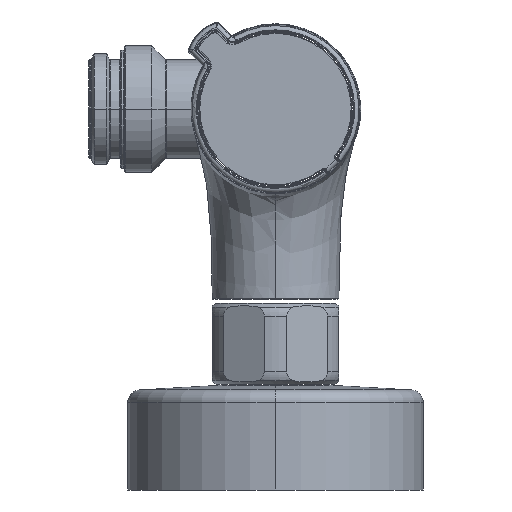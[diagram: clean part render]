
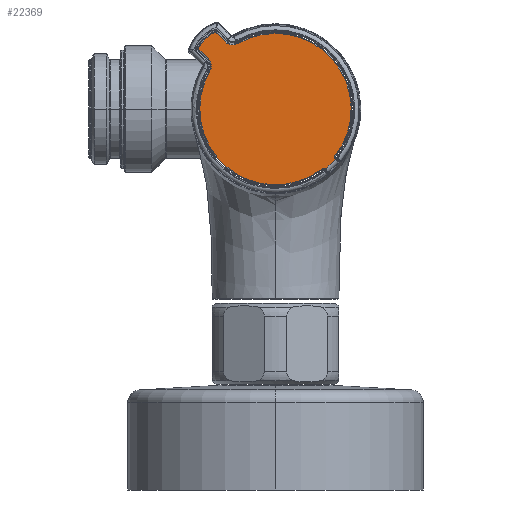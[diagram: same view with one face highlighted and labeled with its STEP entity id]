
A CAD part, left-side view. The second image highlights one B-rep face of the part: STEP entity #22369.
In plain terms, the highlighted planar face has unit normal (-1, 0, 0).
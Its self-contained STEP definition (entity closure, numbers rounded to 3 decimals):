
#21866=DIRECTION('',(0.,-0.707,-0.707));
#21867=VECTOR('',#21866,0.117);
#21868=CARTESIAN_POINT('',(-142.,-14.125,
-11.753));
#21869=LINE('',#21868,#21867);
#21870=CARTESIAN_POINT('',(-142.,0.,0.));
#21871=DIRECTION('',(-1.,0.,0.));
#21872=DIRECTION('',(0.,-0.64,-0.768));
#21873=AXIS2_PLACEMENT_3D('',#21870,#21871,#21872);
#21875=DIRECTION('',(0.,0.707,0.707));
#21876=VECTOR('',#21875,0.117);
#21877=CARTESIAN_POINT('',(-142.,-11.835,
-14.207));
#21878=LINE('',#21877,#21876);
#21879=CARTESIAN_POINT('',(-142.,-11.753,
-14.125));
#21880=CARTESIAN_POINT('',(-142.,-11.718,
-14.09));
#21881=CARTESIAN_POINT('',(-142.,-11.641,
-14.033));
#21882=CARTESIAN_POINT('',(-142.,-11.502,
-13.982));
#21883=CARTESIAN_POINT('',(-142.,-11.356,
-13.973));
#21884=CARTESIAN_POINT('',(-142.,-11.213,
-14.007));
#21885=CARTESIAN_POINT('',(-142.,-11.129,
-14.055));
#21886=CARTESIAN_POINT('',(-142.,-11.09,
-14.085));
#21888=CARTESIAN_POINT('',(-142.,0.,0.));
#21889=DIRECTION('',(1.,0.,0.));
#21890=DIRECTION('',(0.,-0.619,-0.786));
#21891=AXIS2_PLACEMENT_3D('',#21888,#21889,#21890);
#21893=CARTESIAN_POINT('',(-142.,15.52,
8.972));
#21894=CARTESIAN_POINT('',(-142.,15.483,
9.036));
#21895=CARTESIAN_POINT('',(-142.,15.408,
9.179));
#21896=CARTESIAN_POINT('',(-142.,15.302,
9.454));
#21897=CARTESIAN_POINT('',(-142.,15.224,
9.772));
#21898=CARTESIAN_POINT('',(-142.,15.19,
10.122));
#21899=CARTESIAN_POINT('',(-142.,15.209,
10.485));
#21900=CARTESIAN_POINT('',(-142.,15.284,
10.842));
#21901=CARTESIAN_POINT('',(-142.,15.407,
11.173));
#21902=CARTESIAN_POINT('',(-142.,15.565,
11.462));
#21903=CARTESIAN_POINT('',(-142.,15.74,
11.7));
#21904=CARTESIAN_POINT('',(-142.,15.849,
11.819));
#21905=CARTESIAN_POINT('',(-142.,15.901,
11.871));
#21907=DIRECTION('',(0.,0.707,0.707));
#21908=VECTOR('',#21907,3.153);
#21909=CARTESIAN_POINT('',(-142.,15.901,
11.871));
#21910=LINE('',#21909,#21908);
#21911=CARTESIAN_POINT('',(-142.,17.919,14.313));
#21912=DIRECTION('',(1.,0.,0.));
#21913=DIRECTION('',(0.,0.707,-0.707));
#21914=AXIS2_PLACEMENT_3D('',#21911,#21912,#21913);
#21916=CARTESIAN_POINT('',(-142.,10.904,10.904));
#21917=DIRECTION('',(1.,0.,0.));
#21918=DIRECTION('',(0.,0.899,0.437));
#21919=AXIS2_PLACEMENT_3D('',#21916,#21917,#21918);
#21921=CARTESIAN_POINT('',(-142.,14.313,17.919));
#21922=DIRECTION('',(1.,0.,0.));
#21923=DIRECTION('',(0.,0.437,0.899));
#21924=AXIS2_PLACEMENT_3D('',#21921,#21922,#21923);
#21926=DIRECTION('',(0.,-0.707,-0.707));
#21927=VECTOR('',#21926,3.153);
#21928=CARTESIAN_POINT('',(-142.,14.101,18.131));
#21929=LINE('',#21928,#21927);
#21930=CARTESIAN_POINT('',(-142.,11.871,
15.901));
#21931=CARTESIAN_POINT('',(-142.,11.818,
15.849));
#21932=CARTESIAN_POINT('',(-142.,11.699,
15.739));
#21933=CARTESIAN_POINT('',(-142.,11.459,
15.563));
#21934=CARTESIAN_POINT('',(-142.,11.169,
15.405));
#21935=CARTESIAN_POINT('',(-142.,10.837,
15.282));
#21936=CARTESIAN_POINT('',(-142.,10.479,
15.208));
#21937=CARTESIAN_POINT('',(-142.,10.116,
15.19));
#21938=CARTESIAN_POINT('',(-142.,9.766,
15.225));
#21939=CARTESIAN_POINT('',(-142.,9.449,
15.303));
#21940=CARTESIAN_POINT('',(-142.,9.177,
15.41));
#21941=CARTESIAN_POINT('',(-142.,9.035,
15.484));
#21942=CARTESIAN_POINT('',(-142.,8.972,
15.52));
#21944=CARTESIAN_POINT('',(-142.,0.,0.));
#21945=DIRECTION('',(1.,0.,0.));
#21946=DIRECTION('',(0.,0.5,0.866));
#21947=AXIS2_PLACEMENT_3D('',#21944,#21945,#21946);
#21949=CARTESIAN_POINT('',(-142.,-14.085,
-11.09));
#21950=CARTESIAN_POINT('',(-142.,-14.055,
-11.129));
#21951=CARTESIAN_POINT('',(-142.,-14.007,
-11.212));
#21952=CARTESIAN_POINT('',(-142.,-13.973,
-11.356));
#21953=CARTESIAN_POINT('',(-142.,-13.982,
-11.502));
#21954=CARTESIAN_POINT('',(-142.,-14.032,
-11.64));
#21955=CARTESIAN_POINT('',(-142.,-14.089,
-11.717));
#21956=CARTESIAN_POINT('',(-142.,-14.125,
-11.753));
#22004=CARTESIAN_POINT('',(-142.,-14.207,
-11.835));
#22286=VERTEX_POINT('',#22004);
#22288=CARTESIAN_POINT('',(-142.,-14.125,
-11.753));
#22289=VERTEX_POINT('',#22288);
#22292=VERTEX_POINT('',#21949);
#22295=CARTESIAN_POINT('',(-142.,8.972,15.52));
#22296=VERTEX_POINT('',#22295);
#22298=VERTEX_POINT('',#21930);
#22301=CARTESIAN_POINT('',(-142.,14.101,18.131));
#22302=VERTEX_POINT('',#22301);
#22305=CARTESIAN_POINT('',(-142.,14.444,18.189));
#22306=VERTEX_POINT('',#22305);
#22309=CARTESIAN_POINT('',(-142.,18.189,14.444));
#22310=VERTEX_POINT('',#22309);
#22313=CARTESIAN_POINT('',(-142.,18.131,14.101));
#22314=VERTEX_POINT('',#22313);
#22317=CARTESIAN_POINT('',(-142.,15.901,
11.871));
#22318=VERTEX_POINT('',#22317);
#22320=VERTEX_POINT('',#21893);
#22323=CARTESIAN_POINT('',(-142.,-11.09,-14.085));
#22324=VERTEX_POINT('',#22323);
#22326=VERTEX_POINT('',#21879);
#22327=CARTESIAN_POINT('',(-142.,-11.835,
-14.207));
#22328=VERTEX_POINT('',#22327);
#22334=CARTESIAN_POINT('',(-142.,0.,0.));
#22335=DIRECTION('',(-1.,0.,0.));
#22336=DIRECTION('',(0.,-0.707,-0.707));
#22337=AXIS2_PLACEMENT_3D('',#22334,#22335,#22336);
#22338=PLANE('',#22337);
#22340=ORIENTED_EDGE('',*,*,#22339,.T.);
#22342=ORIENTED_EDGE('',*,*,#22341,.F.);
#22344=ORIENTED_EDGE('',*,*,#22343,.T.);
#22346=ORIENTED_EDGE('',*,*,#22345,.T.);
#22348=ORIENTED_EDGE('',*,*,#22347,.T.);
#22350=ORIENTED_EDGE('',*,*,#22349,.T.);
#22352=ORIENTED_EDGE('',*,*,#22351,.T.);
#22354=ORIENTED_EDGE('',*,*,#22353,.T.);
#22356=ORIENTED_EDGE('',*,*,#22355,.T.);
#22358=ORIENTED_EDGE('',*,*,#22357,.T.);
#22360=ORIENTED_EDGE('',*,*,#22359,.T.);
#22362=ORIENTED_EDGE('',*,*,#22361,.T.);
#22364=ORIENTED_EDGE('',*,*,#22363,.T.);
#22366=ORIENTED_EDGE('',*,*,#22365,.T.);
#22367=EDGE_LOOP('',(#22340,#22342,#22344,#22346,#22348,#22350,#22352,#22354,
#22356,#22358,#22360,#22362,#22364,#22366));
#22368=FACE_OUTER_BOUND('',#22367,.F.);
#22369=ADVANCED_FACE('',(#22368),#22338,.T.);
#21874=CIRCLE('',#21873,18.491);
#21887=B_SPLINE_CURVE_WITH_KNOTS('',3,(#21879,#21880,#21881,#21882,#21883,
#21884,#21885,#21886),.UNSPECIFIED.,.F.,.F.,(4,1,1,1,1,4),(0.,0.2,0.4,
0.6,0.8,1.),.UNSPECIFIED.);
#21892=CIRCLE('',#21891,17.927);
#21906=B_SPLINE_CURVE_WITH_KNOTS('',3,(#21893,#21894,#21895,#21896,#21897,
#21898,#21899,#21900,#21901,#21902,#21903,#21904,#21905),.UNSPECIFIED.,.F.,.F.,(
4,1,1,1,1,1,1,1,1,1,4),(0.,0.1,0.2,0.3,0.4,0.5,0.6,0.7,0.8,
0.9,1.),.UNSPECIFIED.);
#21915=CIRCLE('',#21914,0.3);
#21920=CIRCLE('',#21919,8.1);
#21925=CIRCLE('',#21924,0.3);
#21943=B_SPLINE_CURVE_WITH_KNOTS('',3,(#21930,#21931,#21932,#21933,#21934,
#21935,#21936,#21937,#21938,#21939,#21940,#21941,#21942),.UNSPECIFIED.,.F.,.F.,(
4,1,1,1,1,1,1,1,1,1,4),(0.,0.1,0.2,0.3,0.4,0.5,0.6,0.7,0.8,
0.9,1.),.UNSPECIFIED.);
#21948=CIRCLE('',#21947,17.927);
#21957=B_SPLINE_CURVE_WITH_KNOTS('',3,(#21949,#21950,#21951,#21952,#21953,
#21954,#21955,#21956),.UNSPECIFIED.,.F.,.F.,(4,1,1,1,1,4),(0.,0.2,0.4,
0.6,0.8,1.),.UNSPECIFIED.);
#22339=EDGE_CURVE('',#22289,#22286,#21869,.T.);
#22341=EDGE_CURVE('',#22328,#22286,#21874,.T.);
#22343=EDGE_CURVE('',#22328,#22326,#21878,.T.);
#22345=EDGE_CURVE('',#22326,#22324,#21887,.T.);
#22347=EDGE_CURVE('',#22324,#22320,#21892,.T.);
#22349=EDGE_CURVE('',#22320,#22318,#21906,.T.);
#22351=EDGE_CURVE('',#22318,#22314,#21910,.T.);
#22353=EDGE_CURVE('',#22314,#22310,#21915,.T.);
#22355=EDGE_CURVE('',#22310,#22306,#21920,.T.);
#22357=EDGE_CURVE('',#22306,#22302,#21925,.T.);
#22359=EDGE_CURVE('',#22302,#22298,#21929,.T.);
#22361=EDGE_CURVE('',#22298,#22296,#21943,.T.);
#22363=EDGE_CURVE('',#22296,#22292,#21948,.T.);
#22365=EDGE_CURVE('',#22292,#22289,#21957,.T.);
